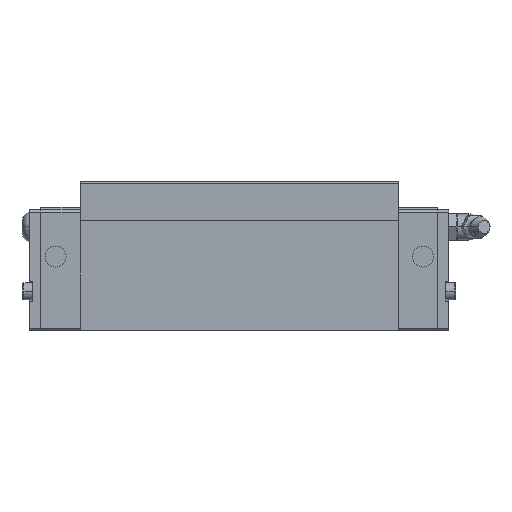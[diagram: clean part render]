
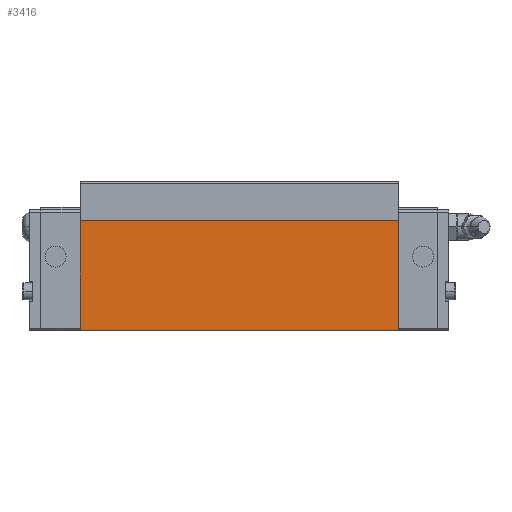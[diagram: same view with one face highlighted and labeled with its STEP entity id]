
A CAD part, left-side view. The second image highlights one B-rep face of the part: STEP entity #3416.
In plain terms, the highlighted planar face has unit normal (-1, 0, 0).
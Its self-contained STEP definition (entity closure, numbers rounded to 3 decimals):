
#1582=EDGE_CURVE('',#2424,#4364,#4631,.T.);
#1644=EDGE_CURVE('',#2424,#3930,#4697,.T.);
#2090=VERTEX_POINT('',#5195);
#2424=VERTEX_POINT('',#5566);
#2850=EDGE_CURVE('',#4364,#2090,#6036,.T.);
#3416=ADVANCED_FACE('',(#6656),#6657,.T.);
#3770=EDGE_CURVE('',#2090,#3930,#7040,.T.);
#3930=VERTEX_POINT('',#7216);
#4364=VERTEX_POINT('',#7711);
#4631=LINE('',#8002,#8003);
#4697=LINE('',#8113,#8114);
#5195=CARTESIAN_POINT('',(-42.2,149.3,9.7));
#5566=CARTESIAN_POINT('',(-42.2,20.5,54.0));
#6036=LINE('',#10108,#10109);
#6656=FACE_OUTER_BOUND('',#11034,.T.);
#6657=PLANE('',#11035);
#7040=LINE('',#11630,#11631);
#7216=CARTESIAN_POINT('',(-42.2,149.3,54.0));
#7711=CARTESIAN_POINT('',(-42.2,20.5,9.7));
#8002=CARTESIAN_POINT('',(-42.2,20.5,29.375));
#8003=VECTOR('',#13053,1.0);
#8113=CARTESIAN_POINT('',(-42.2,84.9,54.0));
#8114=VECTOR('',#13108,1.0);
#10108=CARTESIAN_POINT('',(-42.2,117.1,9.7));
#10109=VECTOR('',#14682,1.0);
#11034=EDGE_LOOP('',(#15357,#15358,#15359,#15360));
#11035=AXIS2_PLACEMENT_3D('',#15361,#15362,#15363);
#11630=CARTESIAN_POINT('',(-42.2,149.3,29.375));
#11631=VECTOR('',#15744,1.0);
#13053=DIRECTION('',(-0.0,-0.0,-1.0));
#13108=DIRECTION('',(0.0,1.0,0.0));
#14682=DIRECTION('',(0.0,1.0,-0.0));
#15357=ORIENTED_EDGE('',*,*,#3770,.F.);
#15358=ORIENTED_EDGE('',*,*,#2850,.F.);
#15359=ORIENTED_EDGE('',*,*,#1582,.F.);
#15360=ORIENTED_EDGE('',*,*,#1644,.T.);
#15361=CARTESIAN_POINT('',(-42.2,84.9,19.0));
#15362=DIRECTION('',(-1.0,0.0,0.0));
#15363=DIRECTION('',(0.0,0.0,1.0));
#15744=DIRECTION('',(0.0,0.0,1.0));
